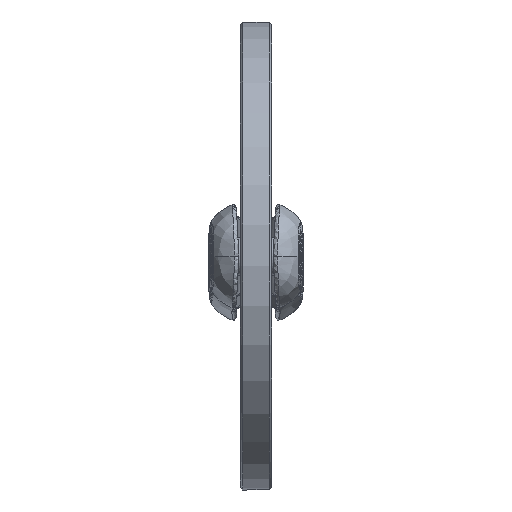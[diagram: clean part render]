
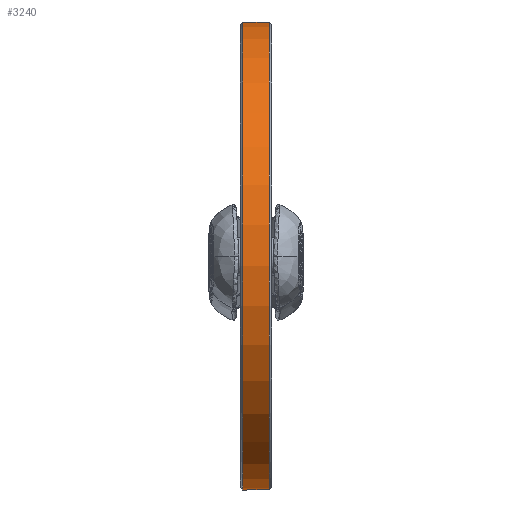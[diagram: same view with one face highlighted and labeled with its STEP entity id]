
A CAD part, top view. The second image highlights one B-rep face of the part: STEP entity #3240.
In plain terms, the highlighted cylindrical face has radius 260 mm (diameter 520 mm), a full revolution.
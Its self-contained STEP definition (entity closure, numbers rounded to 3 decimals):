
#793=FACE_BOUND($,#1497,.T.);
#985=CIRCLE($,#3599,260.);
#986=CIRCLE($,#3601,260.);
#1187=FACE_OUTER_BOUND($,#1496,.T.);
#1496=EDGE_LOOP($,(#2972));
#1497=EDGE_LOOP($,(#2973));
#1793=VERTEX_POINT($,#13989);
#1794=VERTEX_POINT($,#13992);
#2191=EDGE_CURVE($,#1793,#1793,#985,.T.);
#2192=EDGE_CURVE($,#1794,#1794,#986,.T.);
#2972=ORIENTED_EDGE($,*,*,#2192,.F.);
#2973=ORIENTED_EDGE($,*,*,#2191,.F.);
#3025=CYLINDRICAL_SURFACE($,#3600,260.);
#3240=ADVANCED_FACE($,(#1187,#793),#3025,.T.);
#3599=AXIS2_PLACEMENT_3D($,#13990,#4378,#4379);
#3600=AXIS2_PLACEMENT_3D($,#13991,#4380,#4381);
#3601=AXIS2_PLACEMENT_3D($,#13993,#4382,#4383);
#4378=DIRECTION('center_axis',(0.,0.,-1.));
#4379=DIRECTION('ref_axis',(-1.,0.,0.));
#4380=DIRECTION('center_axis',(0.,0.,1.));
#4381=DIRECTION('ref_axis',(-1.,0.,0.));
#4382=DIRECTION('center_axis',(0.,0.,1.));
#4383=DIRECTION('ref_axis',(-1.,0.,0.));
#13989=CARTESIAN_POINT('',(260.,0.,-14.5));
#13990=CARTESIAN_POINT('Origin',(0.,0.,-14.5));
#13991=CARTESIAN_POINT('Origin',(0.,0.,0.));
#13992=CARTESIAN_POINT('',(260.,0.,14.5));
#13993=CARTESIAN_POINT('Origin',(0.,0.,14.5));
